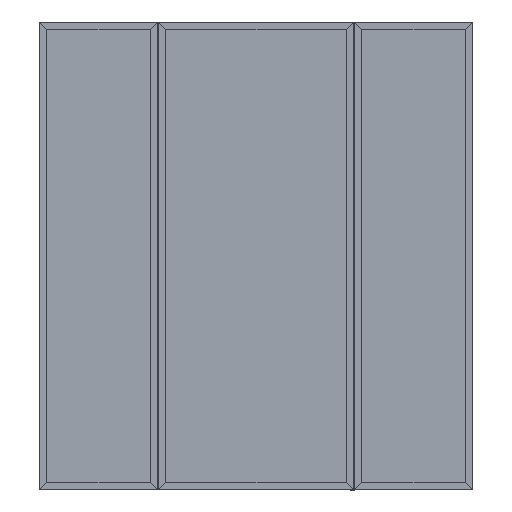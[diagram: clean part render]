
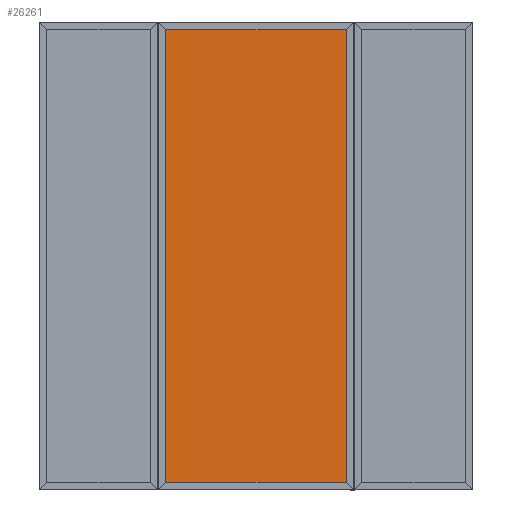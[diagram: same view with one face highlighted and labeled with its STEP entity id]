
A CAD part, top view. The second image highlights one B-rep face of the part: STEP entity #26261.
In plain terms, the highlighted planar face has unit normal (0, 0, 1).
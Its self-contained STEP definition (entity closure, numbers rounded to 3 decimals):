
#6 = DIRECTION ( 'NONE',  ( 0., 0., -1. ) ) ;
#824 = EDGE_CURVE ( 'NONE', #4970, #18237, #53947, .T. ) ;
#1873 = CARTESIAN_POINT ( 'NONE',  ( 465.07, -1162.2, -13.25 ) ) ;
#4970 = VERTEX_POINT ( 'NONE', #37646 ) ;
#5780 = DIRECTION ( 'NONE',  ( 0., 1., 0. ) ) ;
#7673 = EDGE_CURVE ( 'NONE', #43816, #4970, #37859, .T. ) ;
#8050 = DIRECTION ( 'NONE',  ( -1., 0., 0. ) ) ;
#12331 = PLANE ( 'NONE',  #36619 ) ;
#16540 = VECTOR ( 'NONE', #25271, 1000. ) ;
#17375 = DIRECTION ( 'NONE',  ( 0., 1., 0. ) ) ;
#18237 = VERTEX_POINT ( 'NONE', #32951 ) ;
#20105 = CARTESIAN_POINT ( 'NONE',  ( 0., -1162.2, -13.25 ) ) ;
#20184 = EDGE_CURVE ( 'NONE', #43816, #21819, #44607, .T. ) ;
#20378 = DIRECTION ( 'NONE',  ( -1., 0., 0. ) ) ;
#21819 = VERTEX_POINT ( 'NONE', #55196 ) ;
#22875 = EDGE_LOOP ( 'NONE', ( #36602, #50238, #56179, #24299 ) ) ;
#24299 = ORIENTED_EDGE ( 'NONE', *, *, #49576, .T. ) ;
#25271 = DIRECTION ( 'NONE',  ( -1., 0., 0. ) ) ;
#25541 = CARTESIAN_POINT ( 'NONE',  ( 0., 1162.2, -13.25 ) ) ;
#26261 = ADVANCED_FACE ( 'NONE', ( #43257 ), #12331, .F. ) ;
#27822 = CARTESIAN_POINT ( 'NONE',  ( -465.07, 0., -13.25 ) ) ;
#32951 = CARTESIAN_POINT ( 'NONE',  ( -465.07, 1162.2, -13.25 ) ) ;
#33013 = VECTOR ( 'NONE', #20378, 1000. ) ;
#36602 = ORIENTED_EDGE ( 'NONE', *, *, #824, .F. ) ;
#36619 = AXIS2_PLACEMENT_3D ( 'NONE', #42990, #6, #8050 ) ;
#37255 = VECTOR ( 'NONE', #17375, 1000. ) ;
#37646 = CARTESIAN_POINT ( 'NONE',  ( -465.07, -1162.2, -13.25 ) ) ;
#37859 = LINE ( 'NONE', #20105, #33013 ) ;
#39149 = CARTESIAN_POINT ( 'NONE',  ( 465.07, 0., -13.25 ) ) ;
#42474 = LINE ( 'NONE', #25541, #16540 ) ;
#42990 = CARTESIAN_POINT ( 'NONE',  ( 0., 0., -13.25 ) ) ;
#43257 = FACE_OUTER_BOUND ( 'NONE', #22875, .T. ) ;
#43816 = VERTEX_POINT ( 'NONE', #1873 ) ;
#44242 = VECTOR ( 'NONE', #5780, 1000. ) ;
#44607 = LINE ( 'NONE', #39149, #37255 ) ;
#49576 = EDGE_CURVE ( 'NONE', #21819, #18237, #42474, .T. ) ;
#50238 = ORIENTED_EDGE ( 'NONE', *, *, #7673, .F. ) ;
#53947 = LINE ( 'NONE', #27822, #44242 ) ;
#55196 = CARTESIAN_POINT ( 'NONE',  ( 465.07, 1162.2, -13.25 ) ) ;
#56179 = ORIENTED_EDGE ( 'NONE', *, *, #20184, .T. ) ;
